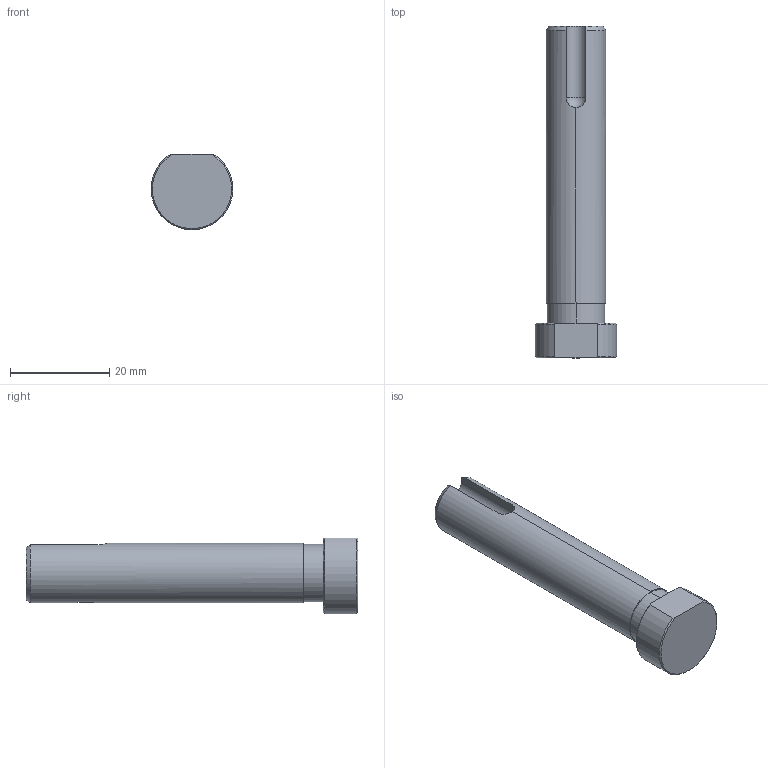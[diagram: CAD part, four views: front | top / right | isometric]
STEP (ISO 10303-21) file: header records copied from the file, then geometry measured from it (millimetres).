
FILE_DESCRIPTION (( 'STEP AP203' ), '1' );
FILE_NAME ('EGCP (P12.60.1).STEP', '2019-04-12T15:03:39', ( '' ), ( '' ), 'SwSTEP 2.0', 'SolidWorks 2018', '' );
FILE_SCHEMA (( 'CONFIG_CONTROL_DESIGN' ));
Length unit declared in the file: millimetre
Products named in the file (1): EGCP (P12.60.1)
Bounding box: 16.5 x 67 x 15.25 mm (x, y, z)
Volume: 7798 mm3; surface area: 3208.1 mm2
Topology: 1 solids, 1 shells, 28 faces, 73 edges, 48 vertices
Faces by surface type: cylinder 9, plane 8, cone 6, bspline 4, sphere 1
Entity records: 1663 total; most frequent: CARTESIAN_POINT 951, ORIENTED_EDGE 142, DIRECTION 118, EDGE_CURVE 71, AXIS2_PLACEMENT_3D 49, VERTEX_POINT 47, EDGE_LOOP 30, ADVANCED_FACE 28
